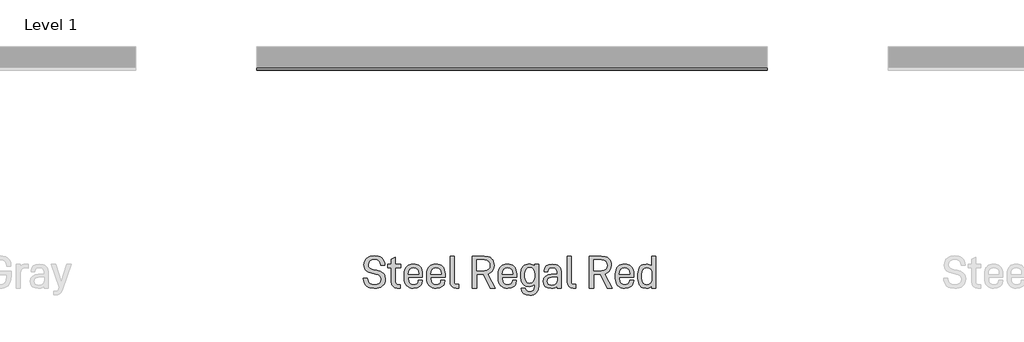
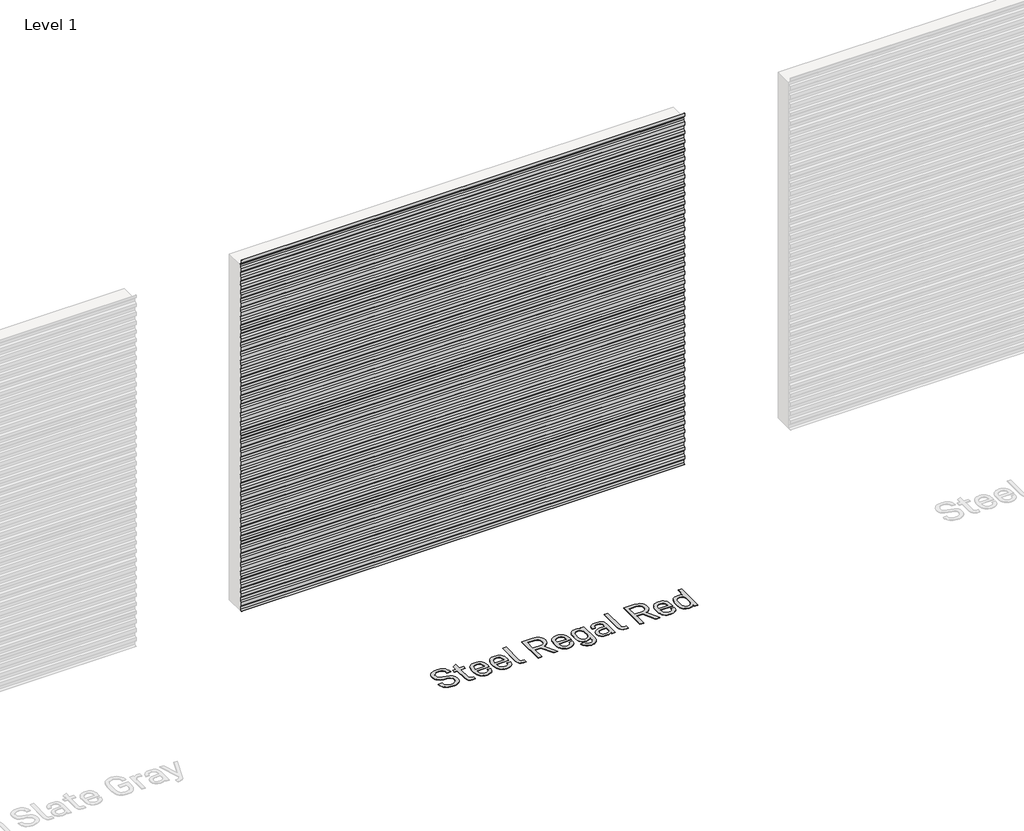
# One storey, part 5 of 9: 2 proxies.
"""IFC4 building model written with IfcOpenShell, lengths in millimetres."""

import ifcopenshell
import ifcopenshell.guid

model = None  # the IFC model being written
_history = None  # IfcOwnerHistory: only IFC2X3 demands one
_inside = {}  # id of a spatial element -> (the spatial element, [elements in it])
_under = {}  # id of a project, library or spatial element -> (it, [spatial elements below it])
_declared = {}  # id of a project -> (the project, [libraries it declares])
_typed = {}  # id of a type object -> (the type object, [elements of that type])
_made_of = {}  # id of a material, layer set ... -> (it, [elements and type objects made of it])


def new_model(schema):
    """Start an empty IFC model of exactly this schema.

    Asked for "IFC4X3", IfcOpenShell would pick the latest addendum, in which some entities
    have other attributes; the version numbers below select the first issue.
    IFC2X3 requires an IfcOwnerHistory on every rooted entity: one is made here for all.
    """
    global model, _history
    if schema == "IFC4X3":
        model = ifcopenshell.file(schema_version=(4, 3, 0, 0))
    else:
        model = ifcopenshell.file(schema=schema)
    _inside.clear()
    _under.clear()
    _declared.clear()
    _typed.clear()
    _made_of.clear()
    _history = None
    if model.schema == "IFC2X3":
        org = make("IfcOrganization", Name="unknown")
        user = make(
            "IfcPersonAndOrganization",
            ThePerson=make("IfcPerson", FamilyName="unknown"),
            TheOrganization=org,
        )
        app = make(
            "IfcApplication",
            ApplicationDeveloper=org,
            Version="unknown",
            ApplicationFullName="unknown",
            ApplicationIdentifier="unknown",
        )
        _history = make(
            "IfcOwnerHistory",
            OwningUser=user,
            OwningApplication=app,
            ChangeAction="ADDED",
            CreationDate=0,
        )
    return model


def make(cls, **values):
    """One entity of the class cls with the attributes given. An attribute that is None is left unset."""
    return model.create_entity(
        cls, **{name: value for name, value in values.items() if value is not None}
    )


def rooted(cls, **values):
    """An entity with a GlobalId (a new one), such as an element, a storey or a relation."""
    return make(cls, GlobalId=ifcopenshell.guid.new(), OwnerHistory=_history, **values)


def si_unit(unit_type, name, prefix=None):
    """IfcSIUnit, for example si_unit("LENGTHUNIT", "METRE", prefix="MILLI")."""
    return make("IfcSIUnit", UnitType=unit_type, Prefix=prefix, Name=name)


def assignment(units):
    """IfcUnitAssignment: the units of a project."""
    return None if units is None else make("IfcUnitAssignment", Units=units)


def point(xyz):
    """IfcCartesianPoint."""
    return None if xyz is None else make("IfcCartesianPoint", Coordinates=xyz)


def direction(xyz):
    """IfcDirection."""
    return None if xyz is None else make("IfcDirection", DirectionRatios=xyz)


def frame(location, z_axis=None, x_axis=None):
    """IfcAxis2Placement3D, a coordinate frame: its origin and axes. An axis left out is left unset."""
    return make(
        "IfcAxis2Placement3D",
        Location=point(location),
        Axis=direction(z_axis),
        RefDirection=direction(x_axis),
    )


def origin():
    """The frame at (0, 0, 0) with its axes left unset."""
    return frame((0.0, 0.0, 0.0))


def origin_with_axes():
    """The frame at (0, 0, 0) with the z axis (0, 0, 1) and the x axis (1, 0, 0) written out."""
    return frame((0.0, 0.0, 0.0), z_axis=(0.0, 0.0, 1.0), x_axis=(1.0, 0.0, 0.0))


def place(relative_to, where):
    """IfcLocalPlacement: puts the frame where relative to a parent placement (None: the world)."""
    return make(
        "IfcLocalPlacement", PlacementRelTo=relative_to, RelativePlacement=where
    )


def context(
    kind, dimensions, precision=None, world=None, true_north=None, identifier=None
):
    """IfcGeometricRepresentationContext, for example the 3D "Model" context."""
    return make(
        "IfcGeometricRepresentationContext",
        ContextIdentifier=identifier,
        ContextType=kind,
        CoordinateSpaceDimension=dimensions,
        Precision=precision,
        WorldCoordinateSystem=world,
        TrueNorth=true_north,
    )


def project(units=None, contexts=None):
    """IfcProject with its units and contexts."""
    return rooted(
        "IfcProject",
        Name="project",
        RepresentationContexts=contexts,
        UnitsInContext=assignment(units),
    )


def spatial(cls, under=None, at=None, **own):
    """A site, building, storey or space (cls), placed at a placement, below another one or the project."""
    s = rooted(cls, ObjectPlacement=at, **own)
    if under is not None:
        _under.setdefault(under.id(), (under, []))[1].append(s)
    return s


def polyline(points):
    """IfcPolyline through the points."""
    return make("IfcPolyline", Points=[point(p) for p in points])


def outline(outer, holes=None, kind="AREA"):
    """IfcArbitraryClosedProfileDef: a profile drawn as a closed curve; with holes, ...WithVoids."""
    if holes is None:
        return make("IfcArbitraryClosedProfileDef", ProfileType=kind, OuterCurve=outer)
    return make(
        "IfcArbitraryProfileDefWithVoids",
        ProfileType=kind,
        OuterCurve=outer,
        InnerCurves=holes,
    )


def extrude(swept, where, along, depth):
    """IfcExtrudedAreaSolid: the profile swept, set in the frame where, extruded along a direction by depth."""
    return make(
        "IfcExtrudedAreaSolid",
        SweptArea=swept,
        Position=where,
        ExtrudedDirection=direction(along),
        Depth=depth,
    )


def shape(context_of_items, identifier, shape_type, items):
    """IfcShapeRepresentation: the items that make up one representation, for example the "Body"."""
    return make(
        "IfcShapeRepresentation",
        ContextOfItems=context_of_items,
        RepresentationIdentifier=identifier,
        RepresentationType=shape_type,
        Items=items,
    )


def made_of(thing, what):
    """Note that an element or type object is made of a material, layer set ...; save() writes the relation."""
    if what is not None:
        _made_of.setdefault(what.id(), (what, []))[1].append(thing)
    return thing


def element(
    cls,
    number,
    at=None,
    inside=None,
    cuts=None,
    type_object=None,
    material=None,
    context=None,
    identifier="Body",
    shape_type=None,
    held_by="IfcProductDefinitionShape",
    body=None,
    shapes=None,
    **own,
):
    """One element of the class cls, such as IfcWall. Its Tag is "e" and its number.

    at: its placement. inside: the storey or other place that contains it. cuts: it is an
    opening in that element (IfcRelVoidsElement). A single representation is given by context,
    identifier, shape_type and body (its items); several are given by shapes. held_by: the class
    of the entity that holds the representations. save() writes the other relations.
    """
    e = rooted(cls, Tag="e%d" % number, ObjectPlacement=at, **own)
    if body is not None:
        shapes = [shape(context, identifier, shape_type, body)]
    if shapes is not None:
        e.Representation = make(held_by, Representations=shapes)
    if inside is not None:
        _inside.setdefault(inside.id(), (inside, []))[1].append(e)
    if cuts is not None:
        rooted(
            "IfcRelVoidsElement", RelatingBuildingElement=cuts, RelatedOpeningElement=e
        )
    if type_object is not None:
        _typed.setdefault(type_object.id(), (type_object, []))[1].append(e)
    return made_of(e, material)


def aggregate(whole, parts):
    """IfcRelAggregates: a whole, such as a stair, and the parts it consists of."""
    return rooted("IfcRelAggregates", RelatingObject=whole, RelatedObjects=parts)


def save(model, path):
    """Write the relations noted so far, then the file.

    IfcRelAggregates (storeys below a building ...), IfcRelContainedInSpatialStructure (elements
    in a storey), IfcRelDefinesByType, IfcRelAssociatesMaterial and IfcRelDeclares: one each for
    every whole, place, type object, material and project.
    """
    for whole, parts in _under.values():
        aggregate(whole, parts)
    for where, things in _inside.values():
        rooted(
            "IfcRelContainedInSpatialStructure",
            RelatedElements=things,
            RelatingStructure=where,
        )
    for kind, things in _typed.values():
        rooted("IfcRelDefinesByType", RelatedObjects=things, RelatingType=kind)
    for what, things in _made_of.values():
        rooted("IfcRelAssociatesMaterial", RelatedObjects=things, RelatingMaterial=what)
    for by, libraries in _declared.values():
        rooted("IfcRelDeclares", RelatingContext=by, RelatedDefinitions=libraries)
    model.write(path)


model = new_model("IFC4")

# Units and contexts
model_context = context("Model", 3, world=origin())
ifc_project = project(units=[si_unit("LENGTHUNIT", "METRE", prefix="MILLI")], contexts=[model_context])

# Site, building, storey
site = spatial("IfcSite", under=ifc_project)
building = spatial("IfcBuilding", under=site)
storey = spatial("IfcBuildingStorey", under=building, Name="Level 1", Elevation=0.0)

# Proxies
placement = place(None, origin())
element("IfcBuildingElementProxy", 1, Name="600mm Arial 2", ObjectType="600mm Arial 2", at=placement, inside=storey, context=model_context, shape_type="SweptSolid", body=[
    extrude(outline(polyline([(4681.7737856, -19997.657289), (4669.5862368, -19984.0139672), (4660.392121, -19967.4681982), (4654.1914382, -19948.019982), (4650.9841885, -19925.6693185), (4690.3628458, -19925.6693185), (4695.9630222, -19951.3682597), (4708.9057533, -19969.7246463), (4729.191039, -19980.7384782), (4756.8188793, -19984.4097555), (4784.860705, -19981.079675), (4804.7865967, -19971.0894334), (4816.6875403, -19955.2215086), (4820.6545215, -19933.3849149), (4817.5428069, -19913.7865721), (4808.2076631, -19899.5381947), (4791.9575979, -19889.7845162), (4768.8290058, -19883.67027), (4735.3462288, -19878.0655442), (4702.5731411, -19868.4392459), (4677.9159874, -19852.3711523), (4668.9356883, -19841.4937991), (4662.5211889, -19828.5874624), (4657.3895893, -19796.6878384), (4659.1319675, -19777.2168757), (4664.3591022, -19760.002361), (4673.0709932, -19745.0442944), (4685.2676406, -19732.3426757), (4700.0027921, -19722.4070256), (4716.8397157, -19715.3101326), (4756.8188793, -19709.6326183), (4793.9774829, -19715.0007809), (4809.9090977, -19721.7109842), (4824.0755878, -19731.1052687), (4836.5133476, -19743.9615633), (4845.9485758, -19759.8203894), (4852.3812724, -19778.6817472), (4855.8114373, -19800.5456367), (4816.3599914, -19800.5456367), (4811.4922507, -19776.343412), (4799.8733632, -19759.0561086), (4781.5033287, -19748.6837266), (4756.3821474, -19745.226266), (4730.4693896, -19748.5563465), (4711.8354963, -19758.5465881), (4700.2621016, -19774.1597526), (4696.4043034, -19794.5041791), (4699.2976521, -19812.3010029), (4707.9776981, -19825.3665648), (4723.4088909, -19834.9018774), (4745.6822165, -19841.2344896), (4779.9656686, -19847.2031585), (4814.0307547, -19857.1934001), (4839.0700488, -19874.207746), (4848.2732632, -19885.5218311), (4854.8469878, -19898.8648997), (4860.1059674, -19931.6379874), (4858.3089977, -19951.6503157), (4852.9180887, -19969.2515201), (4843.9332402, -19984.4416005), (4831.3544524, -19997.2205571), (4815.9687524, -20007.3472775), (4798.053647, -20014.5806491), (4777.6091362, -20018.9206721), (4754.6352199, -20020.3673465), (4713.7098039, -20014.6898321), (4696.61812, -20007.5929391), (4681.7737856, -19997.657289)])), origin_with_axes(), (0.0, 0.0, 1.0), 5.0),
    extrude(outline(polyline([(4956.6965002, -19958.2058431), (4958.1704702, -19969.2879144), (4962.5923805, -19977.2036796), (4969.9622308, -19981.9531387), (4980.2800213, -19983.5362918), (5001.7526718, -19983.5362918), (5001.7526718, -20017.8197439), (4975.621548, -20017.8197439), (4951.8378581, -20013.8527627), (4933.6224995, -20001.9518191), (4922.3220623, -19983.4089116), (4918.5552499, -19959.5160387), (4918.5552499, -19823.692426), (4884.7085296, -19823.692426), (4884.7085296, -19791.9565765), (4918.5552499, -19791.9565765), (4918.5552499, -19743.9160704), (4956.6965002, -19725.9372749), (4956.6965002, -19791.9565765), (5005.61047, -19791.9565765), (5005.61047, -19823.692426), (4956.6965002, -19823.692426), (4956.6965002, -19958.2058431)])), origin_with_axes(), (0.0, 0.0, 1.0), 5.0),
    extrude(outline(polyline([(5077.5984405, -19923.5584478), (5081.0195069, -19952.9741592), (5091.2827059, -19971.9265028), (5107.7693342, -19982.2169976), (5129.8606881, -19985.6471625), (5149.131482, -19983.0813627), (5163.2706765, -19975.3839635), (5171.9507224, -19963.6104), (5174.8440711, -19947.9426441), (5174.8440711, -19942.410707), (5211.7479144, -19942.410707), (5211.7479144, -19948.8161078), (5206.0704001, -19977.9679604), (5198.9735071, -19990.2783401), (5189.037857, -20001.0783554), (5162.3244241, -20015.5450987), (5127.7498174, -20020.3673465), (5108.7997484, -20018.8683553), (5091.8377193, -20014.3713818), (5076.8637302, -20006.8764259), (5063.8777808, -19996.3834877), (5053.3848427, -19982.7833842), (5045.8898868, -19965.9669324), (5041.3929133, -19945.9341324), (5039.8939221, -19922.684984), (5039.8939221, -19884.9804656), (5041.3906386, -19862.2749574), (5045.8807882, -19842.635671), (5053.3643708, -19826.0626062), (5063.8413865, -19812.5557632), (5076.6248924, -19802.2379727), (5091.3918889, -19794.8681223), (5108.142376, -19790.4462121), (5126.8763536, -19788.972242), (5145.2782331, -19790.4462121), (5161.9058893, -19794.8681223), (5176.7593223, -19802.2379727), (5189.8385321, -19812.5557632), (5200.1563226, -19825.8988318), (5207.526173, -19842.4173051), (5211.9480832, -19862.111183), (5213.4220533, -19884.9804656), (5213.4220533, -19914.9693876), (5077.5984405, -19914.9693876), (5077.5984405, -19923.5584478)]), holes=[polyline([(5090.8459741, -19837.3766913), (5080.9103239, -19855.5010641), (5077.5984405, -19884.1070018), (5175.7175349, -19884.5437337), (5175.7175349, -19881.1226674), (5172.4966373, -19853.8815167), (5162.8339446, -19836.5032276), (5147.2207801, -19827.2226753), (5126.8763536, -19824.1291578), (5106.51373, -19827.4410412), (5090.8459741, -19837.3766913)])]), origin_with_axes(), (0.0, 0.0, 1.0), 5.0),
    extrude(outline(polyline([(5291.8882133, -19923.5584478), (5295.3092796, -19952.9741592), (5305.5724787, -19971.9265028), (5322.0591069, -19982.2169976), (5344.1504608, -19985.6471625), (5363.4212548, -19983.0813627), (5377.5604492, -19975.3839635), (5386.2404952, -19963.6104), (5389.1338438, -19947.9426441), (5389.1338438, -19942.410707), (5426.0376872, -19942.410707), (5426.0376872, -19948.8161078), (5420.3601728, -19977.9679604), (5413.2632799, -19990.2783401), (5403.3276297, -20001.0783554), (5376.6141968, -20015.5450987), (5342.0395901, -20020.3673465), (5323.0895212, -20018.8683553), (5306.1274921, -20014.3713818), (5291.1535029, -20006.8764259), (5278.1675536, -19996.3834877), (5267.6746154, -19982.7833842), (5260.1796595, -19965.9669324), (5255.682686, -19945.9341324), (5254.1836948, -19922.684984), (5254.1836948, -19884.9804656), (5255.6804114, -19862.2749574), (5260.1705609, -19842.635671), (5267.6541436, -19826.0626062), (5278.1311593, -19812.5557632), (5290.9146651, -19802.2379727), (5305.6816616, -19794.8681223), (5322.4321487, -19790.4462121), (5341.1661264, -19788.972242), (5359.5680058, -19790.4462121), (5376.1956621, -19794.8681223), (5391.0490951, -19802.2379727), (5404.1283048, -19812.5557632), (5414.4460954, -19825.8988318), (5421.8159457, -19842.4173051), (5426.2378559, -19862.111183), (5427.711826, -19884.9804656), (5427.711826, -19914.9693876), (5291.8882133, -19914.9693876), (5291.8882133, -19923.5584478)]), holes=[polyline([(5305.1357468, -19837.3766913), (5295.2000967, -19855.5010641), (5291.8882133, -19884.1070018), (5390.0073076, -19884.5437337), (5390.0073076, -19881.1226674), (5386.78641, -19853.8815167), (5377.1237173, -19836.5032276), (5361.5105528, -19827.2226753), (5341.1661264, -19824.1291578), (5320.8035028, -19827.4410412), (5305.1357468, -19837.3766913)])]), origin_with_axes(), (0.0, 0.0, 1.0), 5.0),
    extrude(outline(polyline([(5490.3100613, -20001.9518191), (5479.0642155, -19982.4444621), (5475.3156003, -19956.5317042), (5475.3156003, -19713.4904165), (5513.0201187, -19713.4904165), (5513.0201187, -19954.7847767), (5514.403103, -19968.1960847), (5518.5520558, -19976.6941591), (5525.5397657, -19981.1706608), (5536.166908, -19982.662828), (5558.0035017, -19982.662828), (5558.0035017, -20017.8197439), (5533.1825735, -20017.8197439), (5508.3070539, -20013.8527627), (5490.3100613, -20001.9518191)])), origin_with_axes(), (0.0, 0.0, 1.0), 5.0),
    extrude(outline(polyline([(5726.9459482, -19887.9648001), (5726.9459482, -20017.8197439), (5687.0577704, -20017.8197439), (5687.0577704, -19713.4904165), (5801.0447894, -19713.4904165), (5839.5317858, -19719.1679308), (5855.4861471, -19726.2648238), (5869.2477504, -19736.2004739), (5880.2979767, -19748.9293883), (5888.1909954, -19763.9693422), (5892.9268067, -19781.3203356), (5894.5054104, -19800.9823685), (5890.1198945, -19830.9530934), (5876.9633468, -19855.7922187), (5857.8745245, -19872.8429589), (5833.2173708, -19883.67027), (5903.8951457, -20017.8197439), (5858.038299, -20017.8197439), (5791.2183223, -19887.9648001), (5726.9459482, -19887.9648001)]), holes=[polyline([(5798.4971868, -19852.3711523), (5822.8267916, -19849.059269), (5840.0595035, -19839.1236188), (5850.9778003, -19823.2374969), (5854.6172326, -19801.3463118), (5851.0869833, -19779.1912677), (5840.4962354, -19763.2414558), (5822.9359746, -19753.6060588), (5798.4971868, -19750.3942598), (5726.9459482, -19750.3942598), (5726.9459482, -19852.3711523), (5798.4971868, -19852.3711523)])]), origin_with_axes(), (0.0, 0.0, 1.0), 5.0),
    extrude(outline(polyline([(5972.025318, -19923.5584478), (5975.4463844, -19952.9741592), (5985.7095834, -19971.9265028), (6002.1962116, -19982.2169976), (6024.2875656, -19985.6471625), (6043.5583595, -19983.0813627), (6057.6975539, -19975.3839635), (6066.3775999, -19963.6104), (6069.2709486, -19947.9426441), (6069.2709486, -19942.410707), (6106.1747919, -19942.410707), (6106.1747919, -19948.8161078), (6100.4972776, -19977.9679604), (6093.4003846, -19990.2783401), (6083.4647345, -20001.0783554), (6056.7513015, -20015.5450987), (6022.1766949, -20020.3673465), (6003.2266259, -20018.8683553), (5986.2645968, -20014.3713818), (5971.2906076, -20006.8764259), (5958.3046583, -19996.3834877), (5947.8117201, -19982.7833842), (5940.3167643, -19965.9669324), (5935.8197908, -19945.9341324), (5934.3207996, -19922.684984), (5934.3207996, -19884.9804656), (5935.8175161, -19862.2749574), (5940.3076657, -19842.635671), (5947.7912483, -19826.0626062), (5958.268264, -19812.5557632), (5971.0517699, -19802.2379727), (5985.8187664, -19794.8681223), (6002.5692534, -19790.4462121), (6021.3032311, -19788.972242), (6039.7051106, -19790.4462121), (6056.3327668, -19794.8681223), (6071.1861998, -19802.2379727), (6084.2654096, -19812.5557632), (6094.5832001, -19825.8988318), (6101.9530505, -19842.4173051), (6106.3749607, -19862.111183), (6107.8489308, -19884.9804656), (6107.8489308, -19914.9693876), (5972.025318, -19914.9693876), (5972.025318, -19923.5584478)]), holes=[polyline([(5985.2728515, -19837.3766913), (5975.3372014, -19855.5010641), (5972.025318, -19884.1070018), (6070.1444123, -19884.5437337), (6070.1444123, -19881.1226674), (6066.9235148, -19853.8815167), (6057.260822, -19836.5032276), (6041.6476576, -19827.2226753), (6021.3032311, -19824.1291578), (6000.9406075, -19827.4410412), (5985.2728515, -19837.3766913)])]), origin_with_axes(), (0.0, 0.0, 1.0), 5.0),
    extrude(outline(polyline([(6280.5763868, -19790.209649), (6318.7176371, -19790.209649), (6318.7176371, -19996.3470934), (6313.1493058, -20033.4511055), (6306.1888915, -20048.6047917), (6296.4443116, -20061.4929312), (6284.0156503, -20072.0017919), (6269.4397241, -20079.508121), (6252.7165327, -20084.0119185), (6233.8460763, -20085.5131843), (6201.9100581, -20081.4370201), (6176.4158349, -20069.2085277), (6158.7463912, -20047.8996517), (6152.0316387, -20019.9306146), (6189.7361571, -20019.9306146), (6193.2664064, -20033.1417538), (6202.9836906, -20043.5141358), (6216.2676184, -20049.628382), (6233.8460763, -20051.6664641), (6254.2905872, -20048.3727779), (6268.8938092, -20038.4917192), (6277.6557424, -20022.0232881), (6280.5763868, -19998.9674846), (6280.5763868, -19982.2260961), (6263.3982665, -19995.9831502), (6246.1837518, -20002.3703538), (6226.1304799, -20004.4994217), (6195.2862913, -19998.7127244), (6182.1160958, -19991.4793527), (6170.447166, -19981.3526324), (6160.8936563, -19968.4189999), (6154.0697207, -19952.3281599), (6148.6105723, -19910.6748575), (6148.6105723, -19880.6859355), (6154.0697207, -19839.0872245), (6160.8936563, -19823.1192154), (6170.447166, -19810.3721038), (6182.1433915, -19800.4364537), (6195.3954743, -19793.3395607), (6226.5672118, -19787.6620464), (6242.6353053, -19789.1360165), (6256.9928657, -19793.5579267), (6269.6398928, -19800.927777), (6280.5763868, -19811.2455676), (6280.5763868, -19790.209649)]), holes=[polyline([(6267.6927966, -19953.1106379), (6277.3554893, -19933.5850837), (6280.5763868, -19908.4911981), (6280.5763868, -19884.9804656), (6277.4646722, -19859.0313134), (6268.1295284, -19838.686887), (6252.9530958, -19826.4583945), (6232.1719375, -19822.3822303), (6212.3006372, -19826.1581413), (6198.1068513, -19837.4858743), (6189.5905798, -19856.3654293), (6186.7518226, -19882.7968062), (6186.7518226, -19908.92793), (6189.4813968, -19935.391152), (6197.6701195, -19954.2934534), (6211.3179905, -19965.6348342), (6230.42501, -19969.4152945), (6252.188815, -19965.3391304), (6267.6927966, -19953.1106379)])]), origin_with_axes(), (0.0, 0.0, 1.0), 5.0),
    extrude(outline(polyline([(6509.7878319, -19808.697965), (6519.3731867, -19819.4661352), (6526.2198687, -19832.5544436), (6531.6972142, -19865.6914745), (6531.6972142, -20017.8197439), (6494.356639, -20017.8197439), (6494.356639, -20001.5150872), (6475.9411117, -20013.9619456), (6458.9085686, -20018.7659962), (6438.6733251, -20020.3673465), (6406.6281239, -20016.0910135), (6382.5532794, -20003.2620147), (6367.4314382, -19981.4800125), (6362.3908245, -19952.2371741), (6367.522424, -19924.595686), (6382.9172226, -19903.3959929), (6407.5925735, -19890.1848537), (6439.5467889, -19885.7811407), (6493.9199072, -19885.7811407), (6493.9199072, -19865.2547426), (6491.0265585, -19846.3660891), (6482.3465125, -19832.6454294), (6468.425684, -19824.6204812), (6448.9365242, -19821.9454985), (6430.430011, -19824.2019465), (6416.8367314, -19830.9712905), (6408.4842344, -19841.3254754), (6405.7000687, -19855.3554868), (6405.7000687, -19860.9602125), (6368.7962253, -19860.9602125), (6368.7962253, -19854.5548117), (6374.2553738, -19827.5138299), (6390.632819, -19806.5143056), (6415.8358876, -19793.3577579), (6448.4997923, -19788.972242), (6483.984257, -19793.9036727), (6498.0961557, -19800.0679612), (6509.7878319, -19808.697965)]), holes=[polyline([(6481.9825693, -19976.2574272), (6490.9355727, -19961.353952), (6493.9199072, -19939.7903157), (6493.9199072, -19915.8428513), (6443.841319, -19915.8428513), (6424.7024545, -19918.0902008), (6411.031837, -19924.8322491), (6402.8294665, -19936.0689962), (6400.095343, -19951.8004423), (6402.8021707, -19967.7548035), (6410.922654, -19979.1507759), (6424.4567928, -19985.9883593), (6443.4045871, -19988.2675537), (6466.5513764, -19985.2650221), (6481.9825693, -19976.2574272)])]), origin_with_axes(), (0.0, 0.0, 1.0), 5.0),
    extrude(outline(polyline([(6603.6851848, -20001.9518191), (6592.439339, -19982.4444621), (6588.6907238, -19956.5317042), (6588.6907238, -19713.4904165), (6626.3952422, -19713.4904165), (6626.3952422, -19954.7847767), (6627.7782265, -19968.1960847), (6631.9271793, -19976.6941591), (6638.9148893, -19981.1706608), (6649.5420315, -19982.662828), (6671.3786252, -19982.662828), (6671.3786252, -20017.8197439), (6646.557697, -20017.8197439), (6621.6821774, -20013.8527627), (6603.6851848, -20001.9518191)])), origin_with_axes(), (0.0, 0.0, 1.0), 5.0),
    extrude(outline(polyline([(6840.3210717, -19887.9648001), (6840.3210717, -20017.8197439), (6800.4328939, -20017.8197439), (6800.4328939, -19713.4904165), (6914.419913, -19713.4904165), (6952.9069093, -19719.1679308), (6968.8612706, -19726.2648238), (6982.6228739, -19736.2004739), (6993.6731002, -19748.9293883), (7001.5661189, -19763.9693422), (7006.3019302, -19781.3203356), (7007.8805339, -19800.9823685), (7003.495018, -19830.9530934), (6990.3384703, -19855.7922187), (6971.249648, -19872.8429589), (6946.5924943, -19883.67027), (7017.2702692, -20017.8197439), (6971.4134225, -20017.8197439), (6904.5934458, -19887.9648001), (6840.3210717, -19887.9648001)]), holes=[polyline([(6911.8723104, -19852.3711523), (6936.2019152, -19849.059269), (6953.434627, -19839.1236188), (6964.3529239, -19823.2374969), (6967.9923561, -19801.3463118), (6964.4621068, -19779.1912677), (6953.8713589, -19763.2414558), (6936.3110981, -19753.6060588), (6911.8723104, -19750.3942598), (6840.3210717, -19750.3942598), (6840.3210717, -19852.3711523), (6911.8723104, -19852.3711523)])]), origin_with_axes(), (0.0, 0.0, 1.0), 5.0),
    extrude(outline(polyline([(7085.4004415, -19923.5584478), (7088.8215079, -19952.9741592), (7099.0847069, -19971.9265028), (7115.5713351, -19982.2169976), (7137.6626891, -19985.6471625), (7156.933483, -19983.0813627), (7171.0726774, -19975.3839635), (7179.7527234, -19963.6104), (7182.6460721, -19947.9426441), (7182.6460721, -19942.410707), (7219.5499154, -19942.410707), (7219.5499154, -19948.8161078), (7213.8724011, -19977.9679604), (7206.7755081, -19990.2783401), (7196.839858, -20001.0783554), (7170.126425, -20015.5450987), (7135.5518184, -20020.3673465), (7116.6017494, -20018.8683553), (7099.6397203, -20014.3713818), (7084.6657311, -20006.8764259), (7071.6797818, -19996.3834877), (7061.1868436, -19982.7833842), (7053.6918878, -19965.9669324), (7049.1949143, -19945.9341324), (7047.6959231, -19922.684984), (7047.6959231, -19884.9804656), (7049.1926396, -19862.2749574), (7053.6827892, -19842.635671), (7061.1663718, -19826.0626062), (7071.6433875, -19812.5557632), (7084.4268934, -19802.2379727), (7099.1938899, -19794.8681223), (7115.944377, -19790.4462121), (7134.6783546, -19788.972242), (7153.0802341, -19790.4462121), (7169.7078903, -19794.8681223), (7184.5613233, -19802.2379727), (7197.6405331, -19812.5557632), (7207.9583236, -19825.8988318), (7215.328174, -19842.4173051), (7219.7500842, -19862.111183), (7221.2240543, -19884.9804656), (7221.2240543, -19914.9693876), (7085.4004415, -19914.9693876), (7085.4004415, -19923.5584478)]), holes=[polyline([(7098.647975, -19837.3766913), (7088.7123249, -19855.5010641), (7085.4004415, -19884.1070018), (7183.5195358, -19884.5437337), (7183.5195358, -19881.1226674), (7180.2986383, -19853.8815167), (7170.6359456, -19836.5032276), (7155.0227811, -19827.2226753), (7134.6783546, -19824.1291578), (7114.315731, -19827.4410412), (7098.647975, -19837.3766913)])]), origin_with_axes(), (0.0, 0.0, 1.0), 5.0),
    extrude(outline(polyline([(7393.9515104, -19713.4904165), (7432.0927607, -19713.4904165), (7432.0927607, -20017.8197439), (7393.9515104, -20017.8197439), (7393.9515104, -19998.5307528), (7376.77339, -20011.7782863), (7360.1775788, -20018.2200814), (7339.5056034, -20020.3673465), (7308.6614148, -20014.5806491), (7295.4912193, -20007.3472775), (7283.8222895, -19997.2205571), (7274.2687798, -19984.4779949), (7267.4448443, -19968.5236336), (7261.9856958, -19926.9795141), (7261.9856958, -19882.3600743), (7267.4448443, -19840.8159548), (7274.2687798, -19824.8615936), (7283.8222895, -19812.1190313), (7295.518515, -19801.992311), (7308.7705978, -19794.7589393), (7339.9423353, -19788.972242), (7356.0104288, -19790.4462121), (7370.3679892, -19794.8681223), (7383.0150163, -19802.2379727), (7393.9515104, -19812.5557632), (7393.9515104, -19713.4904165)]), holes=[polyline([(7381.0679201, -19969.4152945), (7390.7306128, -19949.8897403), (7393.9515104, -19924.7958547), (7393.9515104, -19886.6546044), (7390.8397958, -19860.7418466), (7381.5046519, -19840.3610258), (7366.3282193, -19828.1871248), (7345.547061, -19824.1291578), (7325.6757608, -19827.8777731), (7311.4819749, -19839.1236188), (7302.9657033, -19857.8666951), (7300.1269461, -19884.1070018), (7300.1269461, -19925.2325866), (7302.8565203, -19951.6639636), (7311.045243, -19970.5435185), (7324.693114, -19981.8712515), (7343.8001335, -19985.6471625), (7365.5639386, -19981.5891955), (7381.0679201, -19969.4152945)])]), origin_with_axes(), (0.0, 0.0, 1.0), 5.0),
])
element("IfcBuildingElementProxy", 2, Name="TitanTek VariPanel HVP 4 : Steel Regal Red", ObjectType="TitanTek VariPanel HVP 4 : Steel Regal Red", at=placement, inside=storey, context=model_context, shape_type="SweptSolid", body=[
    extrude(outline(polyline([(-17945.79831, 375.054257), (-17921.3904975, 350.0739785), (-17921.3904975, 318.3239785), (-17945.79831, 308.9546971), (-17945.79831, 272.0693579), (-17921.3904975, 247.0890794), (-17921.3904975, 215.3390794), (-17945.79831, 205.9697981), (-17945.79831, 169.0844589), (-17921.3904975, 144.1041804), (-17921.3904975, 112.3541804), (-17945.79831, 102.984899), (-17945.79831, 66.0995599), (-17921.3904975, 41.1192814), (-17921.3904975, 9.3692814), (-17945.79831, 0.0), (-17945.79831, 1.0627767), (-17922.382685, 10.051193), (-17922.382685, 40.7150244), (-17946.7904975, 65.6953029), (-17946.7904975, 103.6668106), (-17922.382685, 113.036092), (-17922.382685, 143.6999234), (-17946.7904975, 168.6802019), (-17946.7904975, 206.6517096), (-17922.382685, 216.020991), (-17922.382685, 246.6848225), (-17946.7904975, 271.665101), (-17946.7904975, 309.6366087), (-17922.382685, 319.00589), (-17922.382685, 349.6697215), (-17946.7904975, 374.65), (-17946.7904975, 407.0819116), (-17945.79831, 407.4627767), (-17945.79831, 375.054257)])), frame((3639.4102183, 0.0, 0.0), z_axis=(1.0, 0.0, 0.0), x_axis=(0.0, 1.0, 0.0)), (0.0, 0.0, 1.0), 4850.0),
    extrude(outline(polyline([(-17945.79831, 781.454257), (-17921.3904975, 756.4739785), (-17921.3904975, 724.7239785), (-17945.79831, 715.3546971), (-17945.79831, 678.4693579), (-17921.3904975, 653.4890794), (-17921.3904975, 621.7390794), (-17945.79831, 612.3697981), (-17945.79831, 575.4844589), (-17921.3904975, 550.5041804), (-17921.3904975, 518.7541804), (-17945.79831, 509.384899), (-17945.79831, 472.4995599), (-17921.3904975, 447.5192814), (-17921.3904975, 415.7692814), (-17945.79831, 406.4), (-17945.79831, 407.4627767), (-17922.382685, 416.451193), (-17922.382685, 447.1150244), (-17946.7904975, 472.0953029), (-17946.7904975, 510.0668106), (-17922.382685, 519.436092), (-17922.382685, 550.0999234), (-17946.7904975, 575.0802019), (-17946.7904975, 613.0517096), (-17922.382685, 622.420991), (-17922.382685, 653.0848225), (-17946.7904975, 678.065101), (-17946.7904975, 716.0366087), (-17922.382685, 725.40589), (-17922.382685, 756.0697215), (-17946.7904975, 781.05), (-17946.7904975, 813.4819116), (-17945.79831, 813.8627767), (-17945.79831, 781.454257)])), frame((3639.4102183, 0.0, 0.0), z_axis=(1.0, 0.0, 0.0), x_axis=(0.0, 1.0, 0.0)), (0.0, 0.0, 1.0), 4850.0),
    extrude(outline(polyline([(-17945.79831, 1187.854257), (-17921.3904975, 1162.8739785), (-17921.3904975, 1131.1239785), (-17945.79831, 1121.7546971), (-17945.79831, 1084.8693579), (-17921.3904975, 1059.8890794), (-17921.3904975, 1028.1390794), (-17945.79831, 1018.7697981), (-17945.79831, 981.8844589), (-17921.3904975, 956.9041804), (-17921.3904975, 925.1541804), (-17945.79831, 915.784899), (-17945.79831, 878.8995599), (-17921.3904975, 853.9192814), (-17921.3904975, 822.1692814), (-17945.79831, 812.8), (-17945.79831, 813.8627767), (-17922.382685, 822.851193), (-17922.382685, 853.5150244), (-17946.7904975, 878.4953029), (-17946.7904975, 916.4668106), (-17922.382685, 925.836092), (-17922.382685, 956.4999234), (-17946.7904975, 981.4802019), (-17946.7904975, 1019.4517096), (-17922.382685, 1028.820991), (-17922.382685, 1059.4848225), (-17946.7904975, 1084.465101), (-17946.7904975, 1122.4366087), (-17922.382685, 1131.80589), (-17922.382685, 1162.4697215), (-17946.7904975, 1187.45), (-17946.7904975, 1219.8819116), (-17945.79831, 1220.2627767), (-17945.79831, 1187.854257)])), frame((3639.4102183, 0.0, 0.0), z_axis=(1.0, 0.0, 0.0), x_axis=(0.0, 1.0, 0.0)), (0.0, 0.0, 1.0), 4850.0),
    extrude(outline(polyline([(-17945.79831, 1594.254257), (-17921.3904975, 1569.2739785), (-17921.3904975, 1537.5239785), (-17945.79831, 1528.1546971), (-17945.79831, 1491.2693579), (-17921.3904975, 1466.2890794), (-17921.3904975, 1434.5390794), (-17945.79831, 1425.1697981), (-17945.79831, 1388.2844589), (-17921.3904975, 1363.3041804), (-17921.3904975, 1331.5541804), (-17945.79831, 1322.184899), (-17945.79831, 1285.2995599), (-17921.3904975, 1260.3192814), (-17921.3904975, 1228.5692814), (-17945.79831, 1219.2), (-17945.79831, 1220.2627767), (-17922.382685, 1229.251193), (-17922.382685, 1259.9150244), (-17946.7904975, 1284.8953029), (-17946.7904975, 1322.8668106), (-17922.382685, 1332.236092), (-17922.382685, 1362.8999234), (-17946.7904975, 1387.8802019), (-17946.7904975, 1425.8517096), (-17922.382685, 1435.220991), (-17922.382685, 1465.8848225), (-17946.7904975, 1490.865101), (-17946.7904975, 1528.8366087), (-17922.382685, 1538.20589), (-17922.382685, 1568.8697215), (-17946.7904975, 1593.85), (-17946.7904975, 1626.2819116), (-17945.79831, 1626.6627767), (-17945.79831, 1594.254257)])), frame((3639.4102183, 0.0, 0.0), z_axis=(1.0, 0.0, 0.0), x_axis=(0.0, 1.0, 0.0)), (0.0, 0.0, 1.0), 4850.0),
    extrude(outline(polyline([(-17945.79831, 2000.654257), (-17921.3904975, 1975.6739785), (-17921.3904975, 1943.9239785), (-17945.79831, 1934.5546971), (-17945.79831, 1897.6693579), (-17921.3904975, 1872.6890794), (-17921.3904975, 1840.9390794), (-17945.79831, 1831.5697981), (-17945.79831, 1794.6844589), (-17921.3904975, 1769.7041804), (-17921.3904975, 1737.9541804), (-17945.79831, 1728.584899), (-17945.79831, 1691.6995599), (-17921.3904975, 1666.7192814), (-17921.3904975, 1634.9692814), (-17945.79831, 1625.6), (-17945.79831, 1626.6627767), (-17922.382685, 1635.651193), (-17922.382685, 1666.3150244), (-17946.7904975, 1691.2953029), (-17946.7904975, 1729.2668106), (-17922.382685, 1738.636092), (-17922.382685, 1769.2999234), (-17946.7904975, 1794.2802019), (-17946.7904975, 1832.2517096), (-17922.382685, 1841.620991), (-17922.382685, 1872.2848225), (-17946.7904975, 1897.265101), (-17946.7904975, 1935.2366087), (-17922.382685, 1944.60589), (-17922.382685, 1975.2697215), (-17946.7904975, 2000.25), (-17946.7904975, 2032.6819116), (-17945.79831, 2033.0627767), (-17945.79831, 2000.654257)])), frame((3639.4102183, 0.0, 0.0), z_axis=(1.0, 0.0, 0.0), x_axis=(0.0, 1.0, 0.0)), (0.0, 0.0, 1.0), 4850.0),
    extrude(outline(polyline([(-17945.79831, 2407.054257), (-17921.3904975, 2382.0739785), (-17921.3904975, 2350.3239785), (-17945.79831, 2340.9546971), (-17945.79831, 2304.0693579), (-17921.3904975, 2279.0890794), (-17921.3904975, 2247.3390794), (-17945.79831, 2237.9697981), (-17945.79831, 2201.0844589), (-17921.3904975, 2176.1041804), (-17921.3904975, 2144.3541804), (-17945.79831, 2134.984899), (-17945.79831, 2098.0995599), (-17921.3904975, 2073.1192814), (-17921.3904975, 2041.3692814), (-17945.79831, 2032.0), (-17945.79831, 2033.0627767), (-17922.382685, 2042.051193), (-17922.382685, 2072.7150244), (-17946.7904975, 2097.6953029), (-17946.7904975, 2135.6668106), (-17922.382685, 2145.036092), (-17922.382685, 2175.6999234), (-17946.7904975, 2200.6802019), (-17946.7904975, 2238.6517096), (-17922.382685, 2248.020991), (-17922.382685, 2278.6848225), (-17946.7904975, 2303.665101), (-17946.7904975, 2341.6366087), (-17922.382685, 2351.00589), (-17922.382685, 2381.6697215), (-17946.7904975, 2406.65), (-17946.7904975, 2439.0819116), (-17945.79831, 2439.4627767), (-17945.79831, 2407.054257)])), frame((3639.4102183, 0.0, 0.0), z_axis=(1.0, 0.0, 0.0), x_axis=(0.0, 1.0, 0.0)), (0.0, 0.0, 1.0), 4850.0),
    extrude(outline(polyline([(-17945.79831, 2813.454257), (-17921.3904975, 2788.4739785), (-17921.3904975, 2756.7239785), (-17945.79831, 2747.3546971), (-17945.79831, 2710.4693579), (-17921.3904975, 2685.4890794), (-17921.3904975, 2653.7390794), (-17945.79831, 2644.3697981), (-17945.79831, 2607.4844589), (-17921.3904975, 2582.5041804), (-17921.3904975, 2550.7541804), (-17945.79831, 2541.384899), (-17945.79831, 2504.4995599), (-17921.3904975, 2479.5192814), (-17921.3904975, 2447.7692814), (-17945.79831, 2438.4), (-17945.79831, 2439.4627767), (-17922.382685, 2448.451193), (-17922.382685, 2479.1150244), (-17946.7904975, 2504.0953029), (-17946.7904975, 2542.0668106), (-17922.382685, 2551.436092), (-17922.382685, 2582.0999234), (-17946.7904975, 2607.0802019), (-17946.7904975, 2645.0517096), (-17922.382685, 2654.420991), (-17922.382685, 2685.0848225), (-17946.7904975, 2710.065101), (-17946.7904975, 2748.0366087), (-17922.382685, 2757.40589), (-17922.382685, 2788.0697215), (-17946.7904975, 2813.05), (-17946.7904975, 2845.4819116), (-17945.79831, 2845.8627767), (-17945.79831, 2813.454257)])), frame((3639.4102183, 0.0, 0.0), z_axis=(1.0, 0.0, 0.0), x_axis=(0.0, 1.0, 0.0)), (0.0, 0.0, 1.0), 4850.0),
    extrude(outline(polyline([(-17945.79831, 3219.854257), (-17921.3904975, 3194.8739785), (-17921.3904975, 3163.1239785), (-17945.79831, 3153.7546971), (-17945.79831, 3116.8693579), (-17921.3904975, 3091.8890794), (-17921.3904975, 3060.1390794), (-17945.79831, 3050.7697981), (-17945.79831, 3013.8844589), (-17921.3904975, 2988.9041804), (-17921.3904975, 2957.1541804), (-17945.79831, 2947.784899), (-17945.79831, 2910.8995599), (-17921.3904975, 2885.9192814), (-17921.3904975, 2854.1692814), (-17945.79831, 2844.8), (-17945.79831, 2845.8627767), (-17922.382685, 2854.851193), (-17922.382685, 2885.5150244), (-17946.7904975, 2910.4953029), (-17946.7904975, 2948.4668106), (-17922.382685, 2957.836092), (-17922.382685, 2988.4999234), (-17946.7904975, 3013.4802019), (-17946.7904975, 3051.4517096), (-17922.382685, 3060.820991), (-17922.382685, 3091.4848225), (-17946.7904975, 3116.465101), (-17946.7904975, 3154.4366087), (-17922.382685, 3163.80589), (-17922.382685, 3194.4697215), (-17946.7904975, 3219.45), (-17946.7904975, 3251.8819116), (-17945.79831, 3252.2627767), (-17945.79831, 3219.854257)])), frame((3639.4102183, 0.0, 0.0), z_axis=(1.0, 0.0, 0.0), x_axis=(0.0, 1.0, 0.0)), (0.0, 0.0, 1.0), 4850.0),
    extrude(outline(polyline([(-17945.79831, 3626.254257), (-17921.3904975, 3601.2739785), (-17921.3904975, 3569.5239785), (-17945.79831, 3560.1546971), (-17945.79831, 3523.2693579), (-17921.3904975, 3498.2890794), (-17921.3904975, 3466.5390794), (-17945.79831, 3457.1697981), (-17945.79831, 3420.2844589), (-17921.3904975, 3395.3041804), (-17921.3904975, 3363.5541804), (-17945.79831, 3354.184899), (-17945.79831, 3317.2995599), (-17921.3904975, 3292.3192814), (-17921.3904975, 3260.5692814), (-17945.79831, 3251.2), (-17945.79831, 3252.2627767), (-17922.382685, 3261.251193), (-17922.382685, 3291.9150244), (-17946.7904975, 3316.8953029), (-17946.7904975, 3354.8668106), (-17922.382685, 3364.236092), (-17922.382685, 3394.8999234), (-17946.7904975, 3419.8802019), (-17946.7904975, 3457.8517096), (-17922.382685, 3467.220991), (-17922.382685, 3497.8848225), (-17946.7904975, 3522.865101), (-17946.7904975, 3560.8366087), (-17922.382685, 3570.20589), (-17922.382685, 3600.8697215), (-17946.7904975, 3625.85), (-17946.7904975, 3658.2819116), (-17945.79831, 3658.6627767), (-17945.79831, 3626.254257)])), frame((3639.4102183, 0.0, 0.0), z_axis=(1.0, 0.0, 0.0), x_axis=(0.0, 1.0, 0.0)), (0.0, 0.0, 1.0), 4850.0),
    extrude(outline(polyline([(-17945.79831, 4032.654257), (-17921.3904975, 4007.6739785), (-17921.3904975, 3975.9239785), (-17945.79831, 3966.5546971), (-17945.79831, 3929.6693579), (-17921.3904975, 3904.6890794), (-17921.3904975, 3872.9390794), (-17945.79831, 3863.5697981), (-17945.79831, 3826.6844589), (-17921.3904975, 3801.7041804), (-17921.3904975, 3769.9541804), (-17945.79831, 3760.584899), (-17945.79831, 3723.6995599), (-17921.3904975, 3698.7192814), (-17921.3904975, 3666.9692814), (-17945.79831, 3657.6), (-17945.79831, 3658.6627767), (-17922.382685, 3667.651193), (-17922.382685, 3698.3150244), (-17946.7904975, 3723.2953029), (-17946.7904975, 3761.2668106), (-17922.382685, 3770.636092), (-17922.382685, 3801.2999234), (-17946.7904975, 3826.2802019), (-17946.7904975, 3864.2517096), (-17922.382685, 3873.620991), (-17922.382685, 3904.2848225), (-17946.7904975, 3929.265101), (-17946.7904975, 3967.2366087), (-17922.382685, 3976.60589), (-17922.382685, 4007.2697215), (-17946.7904975, 4032.25), (-17946.7904975, 4064.6819116), (-17945.79831, 4065.0627767), (-17945.79831, 4032.654257)])), frame((3639.4102183, 0.0, 0.0), z_axis=(1.0, 0.0, 0.0), x_axis=(0.0, 1.0, 0.0)), (0.0, 0.0, 1.0), 4850.0),
])

save(model, "model.ifc")
